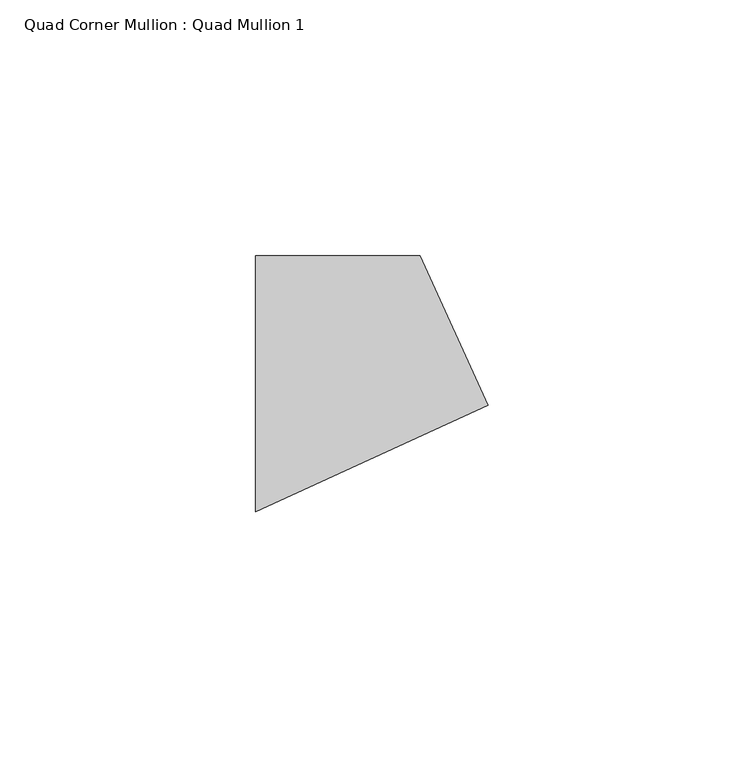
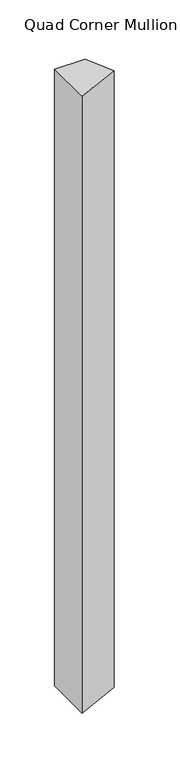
"""IFC4 building model written with IfcOpenShell, lengths in millimetres: member geometry, Quad Corner Mullion : Quad Mullion 1."""

from ifc_helpers import new_model, si_unit, frame, origin, place, context, project, spatial, polyline, outline, extrude, source, transform, mapped, element, save


def quad_corner_mullion_quad_mullion_1_5843fa14(model_context):
    return source(origin(), model_context, "Body", "SweptSolid", [
        extrude(outline(polyline([(29.4125559, -4.1926582), (-16.0523154, -25.0), (-16.0523154, 25.0), (16.0523154, 25.0), (29.4125559, -4.1926582)])), frame((0.0, 0.0, -685.9563281), z_axis=(0.0, 0.0, 1.0), x_axis=(1.0, 0.0, 0.0)), (0.0, 0.0, 1.0), 685.9563281),
    ])


if __name__ == "__main__":
    model = new_model("IFC4")
    model_context = context("Model", 3, world=origin())
    ifc_project = project(units=[si_unit("LENGTHUNIT", "METRE", prefix="MILLI")], contexts=[model_context])
    site = spatial("IfcSite", under=ifc_project)
    building = spatial("IfcBuilding", under=site)
    placement = place(None, origin())
    quad_corner_mullion_quad_mullion_1_shape = quad_corner_mullion_quad_mullion_1_5843fa14(model_context)
    element("IfcMember", 1, ObjectType="Quad Corner Mullion : Quad Mullion 1", at=placement, inside=building, context=model_context, shape_type="MappedRepresentation", body=[
        mapped(quad_corner_mullion_quad_mullion_1_shape, transform((0.0, 0.0, 0.0), x_axis=(1.0, 0.0, 0.0), y_axis=(0.0, 1.0, 0.0), z_axis=(0.0, 0.0, 1.0))),
    ])
    save(model, "model.ifc")
